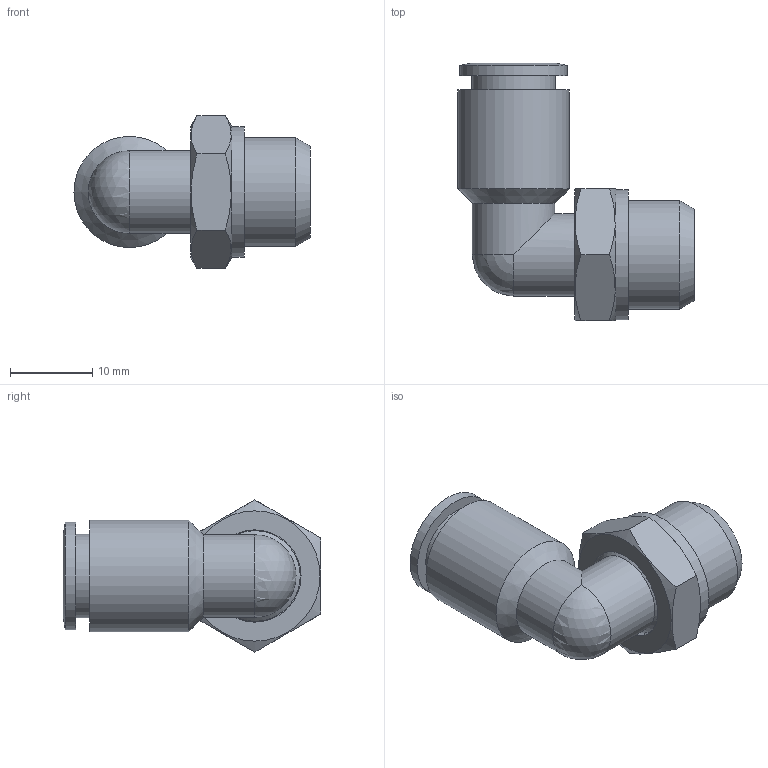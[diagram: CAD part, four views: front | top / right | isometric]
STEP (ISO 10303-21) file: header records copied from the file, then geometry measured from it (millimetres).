
FILE_DESCRIPTION((''),'2;1');
FILE_NAME('C:\Documents and Settings\rivolro1\Documenti\copia di Raccordi\PLASTICA\T22XXXX\T220814.stp','2007-11-02T14:27:16',('Rivolro1'),(''),'Autodesk Inventor 2008','Autodesk Inventor 2008','');
FILE_SCHEMA(('AUTOMOTIVE_DESIGN { 1 0 10303 214 1 1 1 1 }'));
Length unit declared in the file: millimetre
Products named in the file (1): T220814
Bounding box: 28.65 x 31.25 x 18.48 mm (x, y, z)
Volume: 4051 mm3; surface area: 3387 mm2
Topology: 1 solids, 1 shells, 37 faces, 84 edges, 51 vertices
Faces by surface type: plane 14, cylinder 12, cone 6, bspline 4, sphere 1
Full cylindrical faces by diameter (mm): 6 x1, 6.2 x1, 10 x2, 10.1 x1, 11 x1, 11.2 x1, 13 x1, 13.2 x1, 13.5 x1, 15.8 x1
Entity records: 1069 total; most frequent: CARTESIAN_POINT 310, DIRECTION 142, ORIENTED_EDGE 112, AXIS2_PLACEMENT_3D 66, EDGE_LOOP 63, EDGE_CURVE 56, VERTEX_POINT 45, FACE_OUTER_BOUND 37
